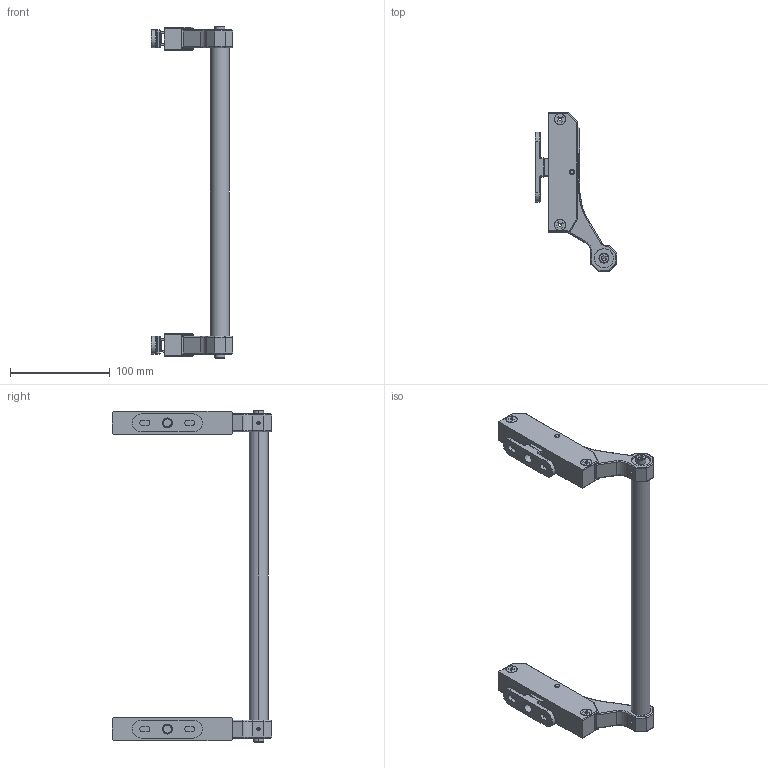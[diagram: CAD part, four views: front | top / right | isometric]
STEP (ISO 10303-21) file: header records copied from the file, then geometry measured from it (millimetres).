
FILE_DESCRIPTION (( 'STEP AP203' ), '1' );
FILE_NAME ('KA-921.STEP', '2013-01-22T03:09:35', ( '' ), ( '' ), 'SwSTEP 2.0', 'SolidWorks 2010', '' );
FILE_SCHEMA (( 'CONFIG_CONTROL_DESIGN' ));
Length unit declared in the file: millimetre
Products named in the file (6): KA-921; SHAFT; KA-902 KEY; KA-902; QPR; STRIKE BASE
Assembly tree (7 placements, depth 2):
  KA-921
    STRIKE BASE  x2
    QPR  x2
    KA-902 KEY
    KA-902
    SHAFT
Bounding box: 82 x 159.5 x 333 mm (x, y, z)
Volume: 36003.7 mm3; surface area: 99553.4 mm2
Topology: 3 solids, 32 shells, 673 faces, 2038 edges, 1382 vertices
Faces by surface type: plane 357, cylinder 194, bspline 62, cone 60
Entity records: 28093 total; most frequent: CARTESIAN_POINT 12534, DIRECTION 2983, ORIENTED_EDGE 2977, EDGE_CURVE 1742, VERTEX_POINT 1208, LINE 1017, VECTOR 1017, AXIS2_PLACEMENT_3D 983
